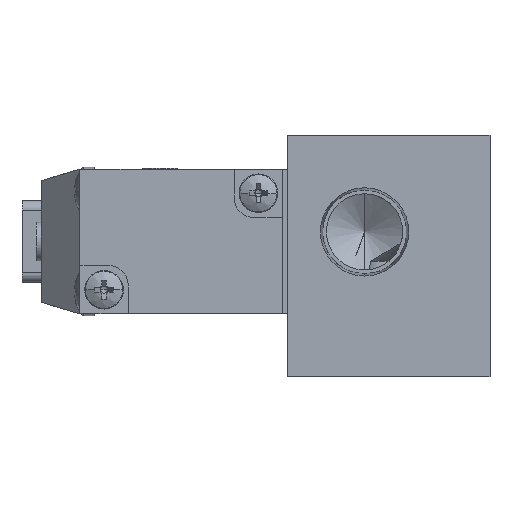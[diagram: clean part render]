
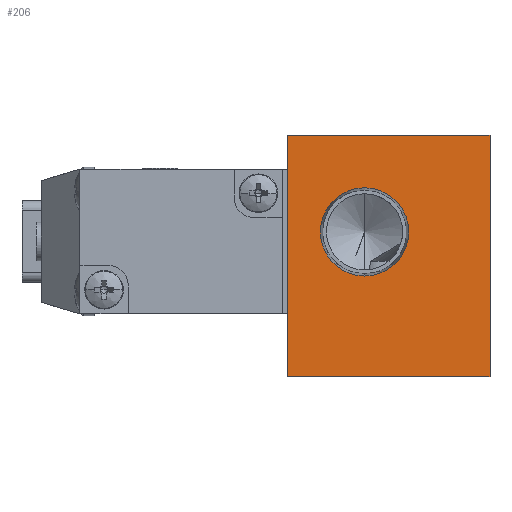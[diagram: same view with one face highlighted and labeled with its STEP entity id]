
A CAD part, left-side view. The second image highlights one B-rep face of the part: STEP entity #206.
In plain terms, the highlighted planar face has unit normal (-1, 0, 0).
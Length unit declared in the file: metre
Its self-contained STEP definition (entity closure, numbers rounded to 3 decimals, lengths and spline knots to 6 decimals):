
#155 = CARTESIAN_POINT ( 'NONE',  ( -0.019, -0.0105, -0.014 ) ) ;
#206 = ADVANCED_FACE ( 'NONE', ( #238, #7190 ), #1522, .T. ) ;
#238 = FACE_BOUND ( 'NONE', #4099, .T. ) ;
#248 = CARTESIAN_POINT ( 'NONE',  ( -0.019, -0.0105, -0.0015 ) ) ;
#628 = ORIENTED_EDGE ( 'NONE', *, *, #11083, .F. ) ;
#641 = CARTESIAN_POINT ( 'NONE',  ( -0.019, 0.0025, 0.001 ) ) ;
#708 = DIRECTION ( 'NONE',  ( 0., 0., 1. ) ) ;
#870 = CIRCLE ( 'NONE', #3241, 0.004574 ) ;
#994 = DIRECTION ( 'NONE',  ( 0., 1., 0. ) ) ;
#1434 = VERTEX_POINT ( 'NONE', #7048 ) ;
#1507 = VERTEX_POINT ( 'NONE', #7152 ) ;
#1522 = PLANE ( 'NONE',  #8661 ) ;
#1531 = DIRECTION ( 'NONE',  ( 0., 0., 1. ) ) ;
#1590 = DIRECTION ( 'NONE',  ( -1., 0., 0. ) ) ;
#1843 = LINE ( 'NONE', #6275, #4395 ) ;
#2032 = CIRCLE ( 'NONE', #8344, 0.004574 ) ;
#2131 = ORIENTED_EDGE ( 'NONE', *, *, #8317, .T. ) ;
#2392 = ORIENTED_EDGE ( 'NONE', *, *, #9965, .F. ) ;
#2730 = VERTEX_POINT ( 'NONE', #5075 ) ;
#3241 = AXIS2_PLACEMENT_3D ( 'NONE', #4733, #10696, #5627 ) ;
#3424 = EDGE_CURVE ( 'NONE', #1434, #1507, #1843, .T. ) ;
#3661 = VERTEX_POINT ( 'NONE', #8574 ) ;
#3777 = VERTEX_POINT ( 'NONE', #9214 ) ;
#4099 = EDGE_LOOP ( 'NONE', ( #7638, #5027 ) ) ;
#4395 = VECTOR ( 'NONE', #6113, 1. ) ;
#4480 = EDGE_LOOP ( 'NONE', ( #8775, #628, #2392, #2131 ) ) ;
#4733 = CARTESIAN_POINT ( 'NONE',  ( -0.019, 0.0025, 0.001 ) ) ;
#5027 = ORIENTED_EDGE ( 'NONE', *, *, #9191, .T. ) ;
#5075 = CARTESIAN_POINT ( 'NONE',  ( -0.019, -0.0105, 0.011 ) ) ;
#5627 = DIRECTION ( 'NONE',  ( 0., 0., 1. ) ) ;
#6113 = DIRECTION ( 'NONE',  ( 0., 0., 1. ) ) ;
#6203 = CARTESIAN_POINT ( 'NONE',  ( -0.019, 0., -0.014 ) ) ;
#6275 = CARTESIAN_POINT ( 'NONE',  ( -0.019, 0.0105, -0.0015 ) ) ;
#6737 = DIRECTION ( 'NONE',  ( 1., 0., 0. ) ) ;
#6965 = CARTESIAN_POINT ( 'NONE',  ( -0.019, 0., 0.011 ) ) ;
#7048 = CARTESIAN_POINT ( 'NONE',  ( -0.019, 0.0105, -0.014 ) ) ;
#7152 = CARTESIAN_POINT ( 'NONE',  ( -0.019, 0.0105, 0.011 ) ) ;
#7190 = FACE_OUTER_BOUND ( 'NONE', #4480, .T. ) ;
#7357 = VECTOR ( 'NONE', #7894, 1. ) ;
#7638 = ORIENTED_EDGE ( 'NONE', *, *, #9601, .T. ) ;
#7894 = DIRECTION ( 'NONE',  ( 0., 1., 0. ) ) ;
#8099 = DIRECTION ( 'NONE',  ( 0., 0., -1. ) ) ;
#8317 = EDGE_CURVE ( 'NONE', #2730, #1507, #9559, .T. ) ;
#8344 = AXIS2_PLACEMENT_3D ( 'NONE', #641, #6737, #1531 ) ;
#8571 = LINE ( 'NONE', #6203, #11047 ) ;
#8574 = CARTESIAN_POINT ( 'NONE',  ( -0.019, 0.0025, -0.003574 ) ) ;
#8661 = AXIS2_PLACEMENT_3D ( 'NONE', #155, #1590, #708 ) ;
#8775 = ORIENTED_EDGE ( 'NONE', *, *, #3424, .F. ) ;
#8834 = VECTOR ( 'NONE', #8099, 1. ) ;
#9191 = EDGE_CURVE ( 'NONE', #3661, #3777, #2032, .T. ) ;
#9214 = CARTESIAN_POINT ( 'NONE',  ( -0.019, 0.0025, 0.005574 ) ) ;
#9559 = LINE ( 'NONE', #6965, #7357 ) ;
#9601 = EDGE_CURVE ( 'NONE', #3777, #3661, #870, .T. ) ;
#9965 = EDGE_CURVE ( 'NONE', #2730, #10070, #11063, .T. ) ;
#10070 = VERTEX_POINT ( 'NONE', #10701 ) ;
#10696 = DIRECTION ( 'NONE',  ( 1., 0., 0. ) ) ;
#10701 = CARTESIAN_POINT ( 'NONE',  ( -0.019, -0.0105, -0.014 ) ) ;
#11047 = VECTOR ( 'NONE', #994, 1. ) ;
#11063 = LINE ( 'NONE', #248, #8834 ) ;
#11083 = EDGE_CURVE ( 'NONE', #10070, #1434, #8571, .T. ) ;
